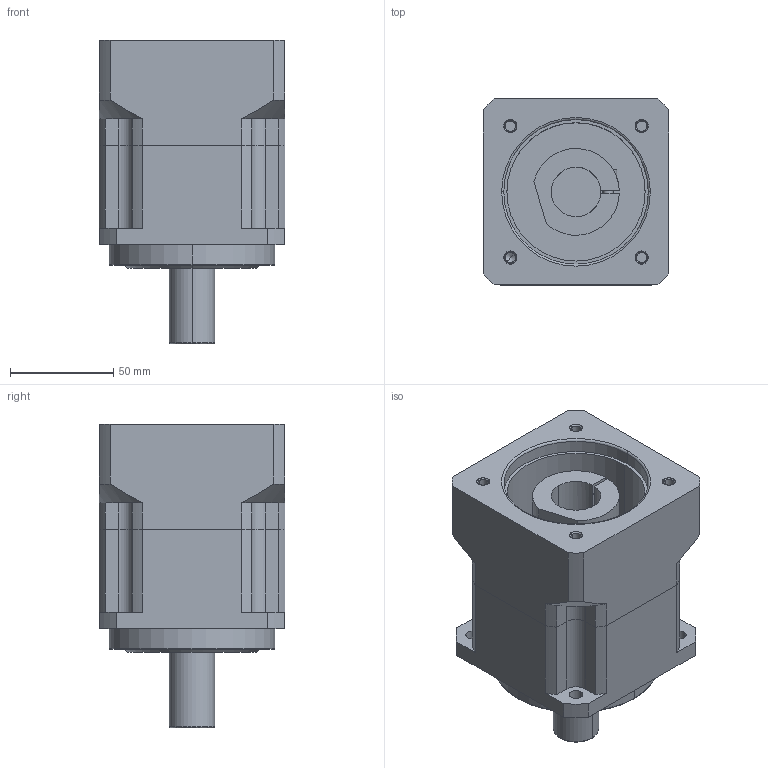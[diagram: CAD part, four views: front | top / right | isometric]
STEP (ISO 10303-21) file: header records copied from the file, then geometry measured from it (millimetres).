
FILE_DESCRIPTION((''),'2;1');
FILE_NAME('AB0901-P0401300305_ASM','2016-03-03T',('d00435'),(''),'PRO/ENGINEER BY PARAMETRIC TECHNOLOGY CORPORATION, 2008410','PRO/ENGINEER BY PARAMETRIC TECHNOLOGY CORPORATION, 2008410','');
FILE_SCHEMA(('CONFIG_CONTROL_DESIGN'));
Length unit declared in the file: millimetre
Products named in the file (3): AB0901; P0401300305; AB0901-P0401300305_ASM
Assembly tree (2 placements, depth 2):
  AB0901-P0401300305_ASM
    AB0901
    P0401300305
Bounding box: 90 x 90 x 147 mm (x, y, z)
Volume: 640588.8 mm3; surface area: 85847.3 mm2
Topology: 2 solids, 7 shells, 173 faces, 441 edges, 286 vertices
Faces by surface type: cylinder 81, plane 64, cone 20, torus 8
Entity records: 5442 total; most frequent: DIRECTION 1003, CARTESIAN_POINT 970, ORIENTED_EDGE 852, EDGE_CURVE 437, AXIS2_PLACEMENT_3D 393, VERTEX_POINT 286, VECTOR 217, LINE 217
